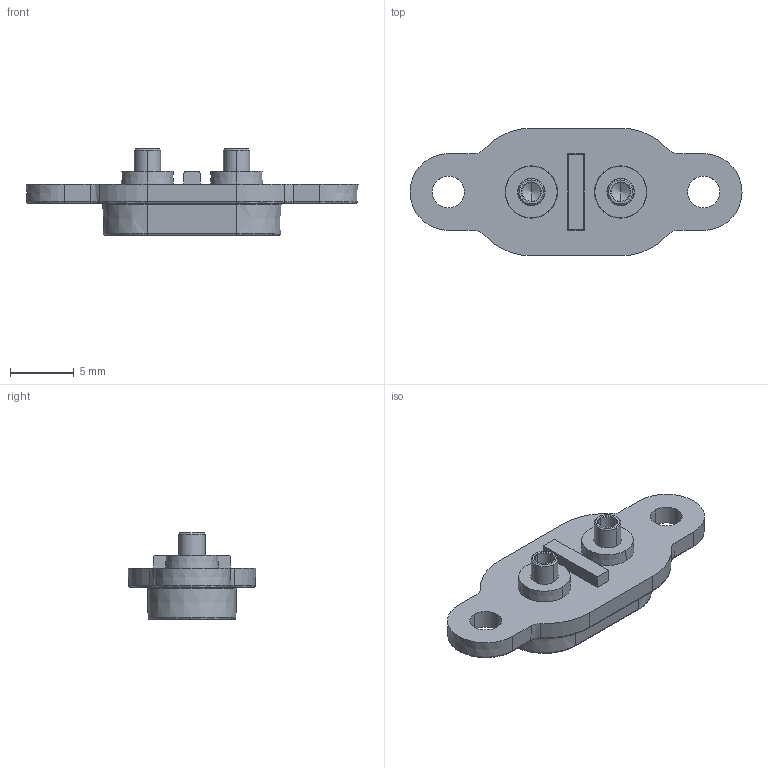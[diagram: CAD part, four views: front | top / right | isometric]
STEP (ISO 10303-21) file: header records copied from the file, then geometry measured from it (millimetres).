
FILE_DESCRIPTION (( 'STEP AP214' ), '1' );
FILE_NAME ('Swift-Dock-2-L.STEP', '2021-08-06T08:38:37', ( '' ), ( '' ), 'SwSTEP 2.0', 'SolidWorks 2021', '' );
FILE_SCHEMA (( 'AUTOMOTIVE_DESIGN' ));
Length unit declared in the file: millimetre
Products named in the file (4): Coda_IPP2S-A_contact land; land body_2 hole; SD2P_land Array_2way_NO PCB; Swift-Dock-2-L
Assembly tree (4 placements, depth 3):
  Swift-Dock-2-L
    SD2P_land Array_2way_NO PCB
      Coda_IPP2S-A_contact land  x2
      land body_2 hole
Bounding box: 26 x 10 x 6.76 mm (x, y, z)
Volume: 527 mm3; surface area: 829.4 mm2
Topology: 3 solids, 3 shells, 132 faces, 288 edges, 170 vertices
Faces by surface type: cone 48, cylinder 34, plane 28, bspline 22
Entity records: 4678 total; most frequent: CARTESIAN_POINT 1029, DIRECTION 506, ORIENTED_EDGE 476, EDGE_CURVE 238, AXIS2_PLACEMENT_3D 204, VERTEX_POINT 143, EDGE_LOOP 125, UNCERTAINTY_MEASURE_WITH_UNIT 116
